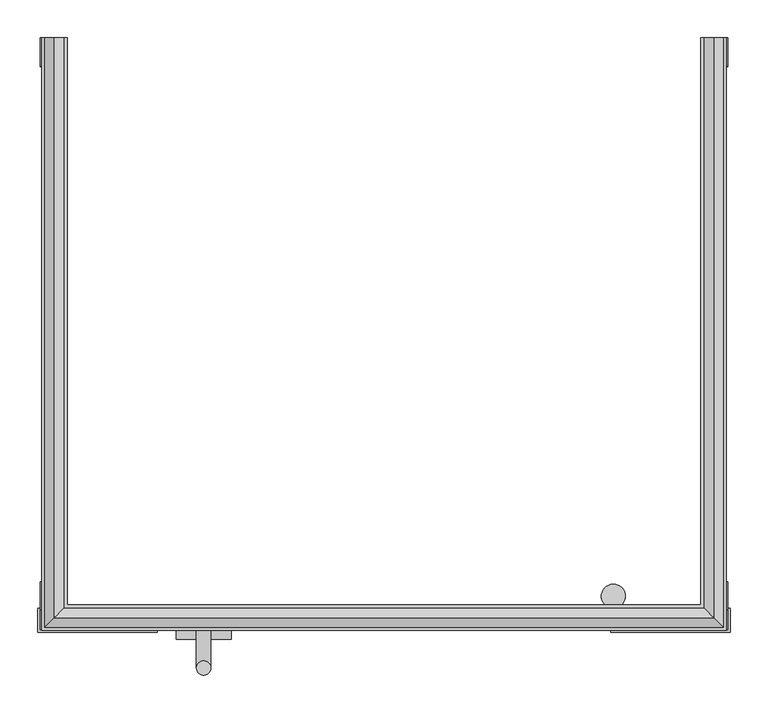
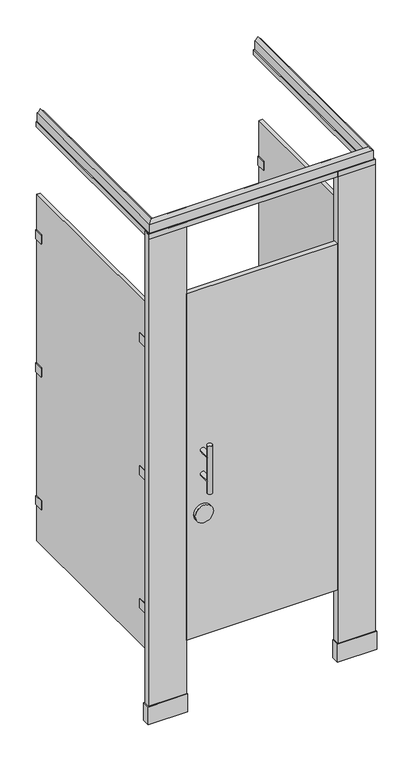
"""IFC4 building model written with IfcOpenShell, lengths in millimetres: proxy geometry, Toilet-Partition_Ironwood-Mfg_Compact-Laminate : Compact Laminate - Headrail Braced - Flat Panel Door."""

from ifc_helpers import new_model, si_unit, point, frame, frame_2d, origin, origin_with_axes, place, context, project, spatial, polyline, circle_curve, ellipse_curve, trimmed, segment, composite_curve, outline, extrude, source, transform, mapped, element, save
from ifc_brep_helpers import plane_surface, cylinder_surface, revolved_surface, advanced_brep


def specialty_equipment_89fad2ef(model_context):
    return source(origin(), model_context, "Body", "SolidModel", [
        extrude(outline(polyline([(701.675, -758.825), (701.675, -790.575), (542.925, -790.575), (542.925, -758.825), (701.675, -758.825)])), origin_with_axes(), (0.0, 0.0, 1.0), 76.2),
        extrude(outline(polyline([(698.5, -762.0), (698.5, -787.4), (546.1, -787.4), (546.1, -762.0), (698.5, -762.0)])), origin_with_axes(), (0.0, 0.0, 1.0), 2082.8),
        extrude(outline(polyline([(-219.075, -758.825), (-60.325, -758.825), (-60.325, -790.575), (-219.075, -790.575), (-219.075, -758.825)])), origin_with_axes(), (0.0, 0.0, 1.0), 76.2),
        extrude(outline(polyline([(-215.9, -762.0), (-63.5, -762.0), (-63.5, -787.4), (-215.9, -787.4), (-215.9, -762.0)])), origin_with_axes(), (0.0, 0.0, 1.0), 2082.8),
        extrude(outline(polyline([(546.1, -787.4), (-63.5, -787.4), (-63.5, -768.35), (546.1, -768.35), (546.1, -787.4)])), frame((0.0, 0.0, 304.8), z_axis=(0.0, 0.0, 1.0), x_axis=(1.0, 0.0, 0.0)), (0.0, 0.0, 1.0), 1473.2),
        extrude(outline(composite_curve([segment(trimmed(circle_curve(frame_2d((827.0875, 1.5875)), 36.5125), [point((827.0875, -34.925))], [point((827.0875, 38.1))], False, "CARTESIAN"), True, "CONTINUOUS"), segment(trimmed(circle_curve(frame_2d((827.0875, 1.5875)), 36.5125), [point((827.0875, 38.1))], [point((827.0875, -34.925))], False, "CARTESIAN"), True, "CONTINUOUS")], self_intersect=False)), frame((0.0, -800.1, 0.0), z_axis=(0.0, 1.0, 0.0), x_axis=(0.0, 0.0, 1.0)), (0.0, 0.0, 1.0), 12.7),
        advanced_brep(
        [(-7.9375, -787.4, 1092.2), (11.1125, -787.4, 1092.2), (-7.9375, -787.4, 990.6), (11.1125, -787.4, 990.6), (11.1125, -838.2, 1092.2), (-7.9375, -838.2, 1092.2), (11.1125, -838.2, 990.6), (-7.9375, -838.2, 990.6), (-7.9375, -838.2, 1143.0), (11.1125, -838.2, 1143.0), (-7.9375, -838.2, 939.8), (11.1125, -838.2, 939.8)],
        [
            (0, 1, circle_curve(frame((1.5875, -787.4, 1092.2), z_axis=(0.0, 1.0, 0.0), x_axis=(1.0, 0.0, 0.0)), 9.525)),
            (1, 0, circle_curve(frame((1.5875, -787.4, 1092.2), z_axis=(0.0, 1.0, 0.0), x_axis=(1.0, 0.0, 0.0)), 9.525)),
            (2, 3, circle_curve(frame((1.5875, -787.4, 990.6), z_axis=(0.0, 1.0, 0.0), x_axis=(1.0, 0.0, 0.0)), 9.525)),
            (3, 2, circle_curve(frame((1.5875, -787.4, 990.6), z_axis=(0.0, 1.0, 0.0), x_axis=(1.0, 0.0, 0.0)), 9.525)),
            (1, 4),
            (4, 5, ellipse_curve(frame((1.5875, -838.2, 1092.2), z_axis=(0.0, 0.7071067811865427, 0.7071067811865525), x_axis=(0.0, -0.7071067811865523, 0.7071067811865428)), 13.4703842, 9.525)),
            (5, 0),
            (5, 4, ellipse_curve(frame((1.5875, -838.2, 1092.2), z_axis=(0.0, 0.7071067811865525, -0.7071067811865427), x_axis=(0.0, -0.7071067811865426, -0.7071067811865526)), 13.4703842, 9.525)),
            (3, 6),
            (6, 7, ellipse_curve(frame((1.5875, -838.2, 990.6), z_axis=(0.0, 0.7071067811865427, 0.7071067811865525), x_axis=(0.0, -0.7071067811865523, 0.7071067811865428)), 13.4703842, 9.525)),
            (7, 2),
            (7, 6, ellipse_curve(frame((1.5875, -838.2, 990.6), z_axis=(0.0, 0.7071067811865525, -0.7071067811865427), x_axis=(0.0, -0.7071067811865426, -0.7071067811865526)), 13.4703842, 9.525)),
            (8, 9, circle_curve(frame((1.5875, -838.2, 1143.0), z_axis=(0.0, 0.0, 1.0), x_axis=(1.0, 0.0, 0.0)), 9.525)),
            (9, 8, circle_curve(frame((1.5875, -838.2, 1143.0), z_axis=(0.0, 0.0, 1.0), x_axis=(1.0, 0.0, 0.0)), 9.525)),
            (10, 11, circle_curve(frame((1.5875, -838.2, 939.8), z_axis=(0.0, 0.0, -1.0), x_axis=(1.0, 0.0, 0.0)), 9.525)),
            (11, 10, circle_curve(frame((1.5875, -838.2, 939.8), z_axis=(0.0, 0.0, -1.0), x_axis=(1.0, 0.0, 0.0)), 9.525)),
            (8, 5),
            (5, 7),
            (7, 10),
            (11, 6),
            (6, 4),
            (4, 9),
        ],
        [
            plane_surface(frame((11.1125, -787.4, 1092.2), z_axis=(0.0, 1.0, 0.0), x_axis=(0.0, 0.0, -1.0))),
            cylinder_surface(frame((1.5875, -787.4, 1092.2), z_axis=(0.0, -1.0, 0.0), x_axis=(1.0, 0.0, 0.0)), 9.525),
            cylinder_surface(frame((1.5875, -787.4, 990.6), z_axis=(0.0, -1.0, 0.0), x_axis=(1.0, 0.0, 0.0)), 9.525),
            plane_surface(frame((11.1125, -838.2, 1143.0), z_axis=(0.0, 0.0, 1.0), x_axis=(0.0, 1.0, 0.0))),
            plane_surface(frame((11.1125, -838.2, 939.8), z_axis=(0.0, 0.0, -1.0), x_axis=(0.0, -1.0, 0.0))),
            cylinder_surface(frame((1.5875, -838.2, 939.8), z_axis=(0.0, 0.0, 1.0), x_axis=(1.0, 0.0, 0.0)), 9.525),
        ],
        [
            (0, [[1, 2]]),
            (0, [[3, 4]]),
            (1, [[-2, 5, 6, 7]]),
            (1, [[-1, -7, 8, -5]]),
            (2, [[-4, 9, 10, 11]]),
            (2, [[-3, -11, 12, -9]]),
            (3, [[13, 14]]),
            (4, [[15, 16]]),
            (5, [[-13, 17, 18, 19, -16, 20, 21, 22]]),
            (5, [[-14, -22, -8, -17]]),
            (5, [[-15, -19, -10, -20]]),
            (5, [[-18, -6, -21, -12]]),
        ],
    ),
        extrude(outline(composite_curve([segment(polyline([(581.3737081, -762.0), (505.1737081, -762.0), (505.1737081, -758.825), (533.7487081, -758.825), (533.7487081, -752.9581331)]), True, "CONTINUOUS"), segment(trimmed(circle_curve(frame_2d((546.1, -742.8902139)), 15.9347861), [point((533.7487081, -752.9581331))], [point((558.4512919, -752.9581331))], False, "CARTESIAN"), True, "CONTINUOUS"), segment(polyline([(558.4512919, -752.9581331), (558.4512919, -758.825), (581.3737081, -758.825), (581.3737081, -762.0)]), True, "CONTINUOUS")], self_intersect=False)), frame((0.0, 0.0, 1574.8), z_axis=(0.0, 0.0, 1.0), x_axis=(1.0, 0.0, 0.0)), (0.0, 0.0, 1.0), 63.5),
        extrude(outline(composite_curve([segment(polyline([(581.3737081, -762.0), (505.1737081, -762.0), (505.1737081, -758.825), (533.7487081, -758.825), (533.7487081, -752.9581331)]), True, "CONTINUOUS"), segment(trimmed(circle_curve(frame_2d((546.1, -742.8902139)), 15.9347861), [point((533.7487081, -752.9581331))], [point((558.4512919, -752.9581331))], False, "CARTESIAN"), True, "CONTINUOUS"), segment(polyline([(558.4512919, -752.9581331), (558.4512919, -758.825), (581.3737081, -758.825), (581.3737081, -762.0)]), True, "CONTINUOUS")], self_intersect=False)), frame((0.0, 0.0, 1009.6500001), z_axis=(0.0, 0.0, 1.0), x_axis=(1.0, 0.0, 0.0)), (0.0, 0.0, 1.0), 63.5),
        extrude(outline(composite_curve([segment(polyline([(581.3737081, -762.0), (505.1737081, -762.0), (505.1737081, -758.825), (533.7487081, -758.825), (533.7487081, -752.9581331)]), True, "CONTINUOUS"), segment(trimmed(circle_curve(frame_2d((546.1, -742.8902139)), 15.9347861), [point((533.7487081, -752.9581331))], [point((558.4512919, -752.9581331))], False, "CARTESIAN"), True, "CONTINUOUS"), segment(polyline([(558.4512919, -752.9581331), (558.4512919, -758.825), (581.3737081, -758.825), (581.3737081, -762.0)]), True, "CONTINUOUS")], self_intersect=False)), frame((0.0, 0.0, 444.5), z_axis=(0.0, 0.0, 1.0), x_axis=(1.0, 0.0, 0.0)), (0.0, 0.0, 1.0), 63.5),
        extrude(outline(polyline([(682.498, -723.9), (682.498, -758.825), (695.198, -758.825), (695.198, -723.9), (698.373, -723.9), (698.373, -762.0), (679.323, -762.0), (679.323, -723.9), (682.498, -723.9)])), frame((0.0, 0.0, 1587.8188137), z_axis=(0.0, 0.0, 1.0), x_axis=(1.0, 0.0, 0.0)), (0.0, 0.0, 1.0), 38.1),
        extrude(outline(polyline([(682.498, -38.1), (679.323, -38.1), (679.323, 0.0), (698.373, 0.0), (698.373, -38.1), (695.198, -38.1), (695.198, -3.175), (682.498, -3.175), (682.498, -38.1)])), frame((0.0, 0.0, 1587.8188137), z_axis=(0.0, 0.0, 1.0), x_axis=(1.0, 0.0, 0.0)), (0.0, 0.0, 1.0), 38.1),
        extrude(outline(polyline([(682.498, -723.9), (682.498, -758.825), (695.198, -758.825), (695.198, -723.9), (698.373, -723.9), (698.373, -762.0), (679.323, -762.0), (679.323, -723.9), (682.498, -723.9)])), frame((0.0, 0.0, 1022.35), z_axis=(0.0, 0.0, 1.0), x_axis=(1.0, 0.0, 0.0)), (0.0, 0.0, 1.0), 38.1),
        extrude(outline(polyline([(682.498, -38.1), (679.323, -38.1), (679.323, 0.0), (698.373, 0.0), (698.373, -38.1), (695.198, -38.1), (695.198, -3.175), (682.498, -3.175), (682.498, -38.1)])), frame((0.0, 0.0, 1022.35), z_axis=(0.0, 0.0, 1.0), x_axis=(1.0, 0.0, 0.0)), (0.0, 0.0, 1.0), 38.1),
        extrude(outline(polyline([(682.498, -723.9), (682.498, -758.825), (695.198, -758.825), (695.198, -723.9), (698.373, -723.9), (698.373, -762.0), (679.323, -762.0), (679.323, -723.9), (682.498, -723.9)])), frame((0.0, 0.0, 457.2), z_axis=(0.0, 0.0, 1.0), x_axis=(1.0, 0.0, 0.0)), (0.0, 0.0, 1.0), 38.1),
        extrude(outline(polyline([(682.498, -38.1), (679.323, -38.1), (679.323, 0.0), (698.373, 0.0), (698.373, -38.1), (695.198, -38.1), (695.198, -3.175), (682.498, -3.175), (682.498, -38.1)])), frame((0.0, 0.0, 457.2), z_axis=(0.0, 0.0, 1.0), x_axis=(1.0, 0.0, 0.0)), (0.0, 0.0, 1.0), 38.1),
        extrude(outline(polyline([(-212.598, -723.9), (-212.598, -758.825), (-199.898, -758.825), (-199.898, -723.9), (-196.723, -723.9), (-196.723, -762.0), (-215.773, -762.0), (-215.773, -723.9), (-212.598, -723.9)])), frame((0.0, 0.0, 1587.8188137), z_axis=(0.0, 0.0, 1.0), x_axis=(1.0, 0.0, 0.0)), (0.0, 0.0, 1.0), 38.1),
        extrude(outline(polyline([(-212.598, -38.1), (-215.773, -38.1), (-215.773, 0.0), (-196.723, 0.0), (-196.723, -38.1), (-199.898, -38.1), (-199.898, -3.175), (-212.598, -3.175), (-212.598, -38.1)])), frame((0.0, 0.0, 1587.8188137), z_axis=(0.0, 0.0, 1.0), x_axis=(1.0, 0.0, 0.0)), (0.0, 0.0, 1.0), 38.1),
        extrude(outline(polyline([(-212.598, -723.9), (-212.598, -758.825), (-199.898, -758.825), (-199.898, -723.9), (-196.723, -723.9), (-196.723, -762.0), (-215.773, -762.0), (-215.773, -723.9), (-212.598, -723.9)])), frame((0.0, 0.0, 1022.35), z_axis=(0.0, 0.0, 1.0), x_axis=(1.0, 0.0, 0.0)), (0.0, 0.0, 1.0), 38.1),
        extrude(outline(polyline([(-212.598, -38.1), (-215.773, -38.1), (-215.773, 0.0), (-196.723, 0.0), (-196.723, -38.1), (-199.898, -38.1), (-199.898, -3.175), (-212.598, -3.175), (-212.598, -38.1)])), frame((0.0, 0.0, 1022.35), z_axis=(0.0, 0.0, 1.0), x_axis=(1.0, 0.0, 0.0)), (0.0, 0.0, 1.0), 38.1),
        extrude(outline(polyline([(-212.598, -723.9), (-212.598, -758.825), (-199.898, -758.825), (-199.898, -723.9), (-196.723, -723.9), (-196.723, -762.0), (-215.773, -762.0), (-215.773, -723.9), (-212.598, -723.9)])), frame((0.0, 0.0, 457.2), z_axis=(0.0, 0.0, 1.0), x_axis=(1.0, 0.0, 0.0)), (0.0, 0.0, 1.0), 38.1),
        extrude(outline(polyline([(-212.598, -38.1), (-215.773, -38.1), (-215.773, 0.0), (-196.723, 0.0), (-196.723, -38.1), (-199.898, -38.1), (-199.898, -3.175), (-212.598, -3.175), (-212.598, -38.1)])), frame((0.0, 0.0, 457.2), z_axis=(0.0, 0.0, 1.0), x_axis=(1.0, 0.0, 0.0)), (0.0, 0.0, 1.0), 38.1),
        extrude(outline(polyline([(-199.898, -3.175), (-199.898, -758.825), (-212.598, -758.825), (-212.598, -3.175), (-199.898, -3.175)])), frame((0.0, 0.0, 304.8), z_axis=(0.0, 0.0, 1.0), x_axis=(1.0, 0.0, 0.0)), (0.0, 0.0, 1.0), 1473.2),
        extrude(outline(polyline([(695.198, -3.175), (695.198, -758.825), (682.498, -758.825), (682.498, -3.175), (695.198, -3.175)])), frame((0.0, 0.0, 304.8), z_axis=(0.0, 0.0, 1.0), x_axis=(1.0, 0.0, 0.0)), (0.0, 0.0, 1.0), 1473.2),
        advanced_brep(
        [(663.448, 0.0, 2063.75), (662.257375, 0.0, 2063.75), (662.257375, 0.0, 2083.990625), (666.623, 0.0, 2083.990625), (666.623, 0.0, 2120.9), (679.323, 0.0, 2133.6), (692.023, 0.0, 2120.9), (692.023, 0.0, 2083.990625), (696.388625, 0.0, 2083.990625), (696.388625, 0.0, 2063.75), (695.198, 0.0, 2063.75), (695.198, 0.0, 2082.8), (663.448, 0.0, 2082.8), (667.813625, 0.0, 2119.709375), (667.813625, 0.0, 2083.990625), (690.832375, 0.0, 2083.990625), (690.832375, 0.0, 2119.709375), (679.323, 0.0, 2131.21875), (663.448, -755.65, 2063.75), (663.448, -755.65, 2082.8), (-180.848, -755.65, 2082.8), (-180.848, -755.65, 2063.75), (695.198, -787.4, 2082.8), (695.198, -787.4, 2063.75), (-212.598, -787.4, 2063.75), (-212.598, -787.4, 2082.8), (696.388625, -788.590625, 2063.75), (696.388625, -788.590625, 2083.990625), (-213.788625, -788.590625, 2083.990625), (-213.788625, -788.590625, 2063.75), (692.023, -784.225, 2083.990625), (692.023, -784.225, 2120.9), (-209.423, -784.225, 2120.9), (-209.423, -784.225, 2083.990625), (679.323, -771.525, 2133.6), (-196.723, -771.525, 2133.6), (666.623, -758.825, 2120.9), (-184.023, -758.825, 2120.9), (666.623, -758.825, 2083.990625), (-184.023, -758.825, 2083.990625), (662.257375, -754.459375, 2083.990625), (662.257375, -754.459375, 2063.75), (-179.657375, -754.459375, 2063.75), (-179.657375, -754.459375, 2083.990625), (667.813625, -760.015625, 2119.709375), (679.323, -771.525, 2131.21875), (-196.723, -771.525, 2131.21875), (-185.213625, -760.015625, 2119.709375), (690.832375, -783.034375, 2119.709375), (-208.232375, -783.034375, 2119.709375), (690.832375, -783.034375, 2083.990625), (-208.232375, -783.034375, 2083.990625), (667.813625, -760.015625, 2083.990625), (-185.213625, -760.015625, 2083.990625), (-180.848, 0.0, 2063.75), (-180.848, 0.0, 2082.8), (-212.598, 0.0, 2082.8), (-212.598, 0.0, 2063.75), (-213.788625, 0.0, 2063.75), (-213.788625, 0.0, 2083.990625), (-209.423, 0.0, 2083.990625), (-209.423, 0.0, 2120.9), (-196.723, 0.0, 2133.6), (-184.023, 0.0, 2120.9), (-184.023, 0.0, 2083.990625), (-179.657375, 0.0, 2083.990625), (-179.657375, 0.0, 2063.75), (-185.213625, 0.0, 2119.709375), (-196.723, 0.0, 2131.21875), (-208.232375, 0.0, 2119.709375), (-208.232375, 0.0, 2083.990625), (-185.213625, 0.0, 2083.990625)],
        [
            (0, 1),
            (1, 2),
            (2, 3),
            (3, 4),
            (4, 5, circle_curve(frame((649.9091809, 0.0, 2150.3138191), z_axis=(0.0, -1.0, 0.0), x_axis=(1.0, 0.0, 0.0)), 33.8308218)),
            (5, 6, circle_curve(frame((708.7368191, 0.0, 2150.3138191), z_axis=(0.0, -1.0, 0.0), x_axis=(1.0, 0.0, 0.0)), 33.8308218)),
            (6, 7),
            (7, 8),
            (8, 9),
            (9, 10),
            (10, 11),
            (11, 12),
            (12, 0),
            (13, 14),
            (14, 15),
            (15, 16),
            (16, 17, circle_curve(frame((709.9824574, 0.0, 2150.3688324), z_axis=(0.0, 1.0, 0.0), x_axis=(1.0, 0.0, 0.0)), 36.1486927)),
            (17, 13, circle_curve(frame((648.6635426, 0.0, 2150.3688324), z_axis=(0.0, 1.0, 0.0), x_axis=(1.0, 0.0, 0.0)), 36.1486927)),
            (18, 19),
            (19, 20),
            (20, 21),
            (21, 18),
            (22, 23),
            (23, 24),
            (24, 25),
            (25, 22),
            (26, 27),
            (27, 28),
            (28, 29),
            (29, 26),
            (30, 31),
            (31, 32),
            (32, 33),
            (33, 30),
            (31, 34, ellipse_curve(frame((708.7368191, -800.9388191, 2150.3138191), z_axis=(0.7071067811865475, 0.7071067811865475, 0.0), x_axis=(-0.7071067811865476, 0.7071067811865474, 0.0)), 47.844007, 33.8308218)),
            (34, 35),
            (35, 32, ellipse_curve(frame((-226.1368191, -800.9388191, 2150.3138191), z_axis=(-0.7071067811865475, 0.7071067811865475, 0.0), x_axis=(-0.7071067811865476, -0.7071067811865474, 0.0)), 47.844007, 33.8308218)),
            (34, 36, ellipse_curve(frame((649.9091809, -742.1111809, 2150.3138191), z_axis=(0.7071067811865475, 0.7071067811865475, 0.0), x_axis=(-0.7071067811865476, 0.7071067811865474, 0.0)), 47.844007, 33.8308218)),
            (36, 37),
            (37, 35, ellipse_curve(frame((-167.3091809, -742.1111809, 2150.3138191), z_axis=(-0.7071067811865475, 0.7071067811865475, 0.0), x_axis=(-0.7071067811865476, -0.7071067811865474, 0.0)), 47.844007, 33.8308218)),
            (36, 38),
            (38, 39),
            (39, 37),
            (40, 41),
            (41, 42),
            (42, 43),
            (43, 40),
            (44, 45, ellipse_curve(frame((648.6635426, -740.8655426, 2150.3688324), z_axis=(-0.7071067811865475, -0.7071067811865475, 0.0), x_axis=(0.7071067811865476, -0.7071067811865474, 0.0)), 51.1219715, 36.1486927)),
            (45, 46),
            (46, 47, ellipse_curve(frame((-166.0635426, -740.8655426, 2150.3688324), z_axis=(0.7071067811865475, -0.7071067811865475, 0.0), x_axis=(0.7071067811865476, 0.7071067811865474, 0.0)), 51.1219715, 36.1486927)),
            (47, 44),
            (45, 48, ellipse_curve(frame((709.9824574, -802.1844574, 2150.3688324), z_axis=(-0.7071067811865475, -0.7071067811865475, 0.0), x_axis=(0.7071067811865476, -0.7071067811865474, 0.0)), 51.1219715, 36.1486927)),
            (48, 49),
            (49, 46, ellipse_curve(frame((-227.3824574, -802.1844574, 2150.3688324), z_axis=(0.7071067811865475, -0.7071067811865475, 0.0), x_axis=(0.7071067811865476, 0.7071067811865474, 0.0)), 51.1219715, 36.1486927)),
            (48, 50),
            (50, 51),
            (51, 49),
            (52, 44),
            (47, 53),
            (53, 52),
            (54, 55),
            (55, 56),
            (56, 57),
            (57, 58),
            (58, 59),
            (59, 60),
            (60, 61),
            (61, 62, circle_curve(frame((-226.1368191, 0.0, 2150.3138191), z_axis=(0.0, -1.0, 0.0), x_axis=(-1.0, 0.0, 0.0)), 33.8308218)),
            (62, 63, circle_curve(frame((-167.3091809, 0.0, 2150.3138191), z_axis=(0.0, -1.0, 0.0), x_axis=(-1.0, 0.0, 0.0)), 33.8308218)),
            (63, 64),
            (64, 65),
            (65, 66),
            (66, 54),
            (67, 68, circle_curve(frame((-166.0635426, 0.0, 2150.3688324), z_axis=(0.0, 1.0, 0.0), x_axis=(-1.0, 0.0, 0.0)), 36.1486927)),
            (68, 69, circle_curve(frame((-227.3824574, 0.0, 2150.3688324), z_axis=(0.0, 1.0, 0.0), x_axis=(-1.0, 0.0, 0.0)), 36.1486927)),
            (69, 70),
            (70, 71),
            (71, 67),
            (20, 55),
            (54, 21),
            (24, 57),
            (56, 25),
            (28, 59),
            (58, 29),
            (32, 61),
            (60, 33),
            (35, 62),
            (37, 63),
            (39, 64),
            (42, 66),
            (65, 43),
            (46, 68),
            (67, 47),
            (49, 69),
            (51, 70),
            (71, 53),
            (0, 18),
            (41, 1),
            (40, 2),
            (38, 3),
            (36, 4),
            (34, 5),
            (31, 6),
            (30, 7),
            (27, 8),
            (26, 9),
            (23, 10),
            (22, 11),
            (19, 12),
            (13, 44),
            (52, 14),
            (50, 15),
            (48, 16),
            (45, 17),
        ],
        [
            plane_surface(frame((695.198, 0.0, 0.0), z_axis=(0.0, 1.0, 0.0), x_axis=(0.0, 0.0, 1.0))),
            plane_surface(frame((663.448, -755.65, 2082.8), z_axis=(0.0, -1.0, 0.0), x_axis=(-1.0, 0.0, 0.0))),
            plane_surface(frame((695.198, -787.4, 2063.75), z_axis=(0.0, 1.0, 0.0), x_axis=(-1.0, 0.0, 0.0))),
            plane_surface(frame((696.388625, -788.590625, 2083.990625), z_axis=(0.0, -1.0, 0.0), x_axis=(-1.0, 0.0, 0.0))),
            plane_surface(frame((692.023, -784.225, 2120.9), z_axis=(0.0, -1.0, 0.0), x_axis=(-1.0, 0.0, 0.0))),
            revolved_surface(polyline([(-259.9676408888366, -834.7696409, 2150.3138191), (742.5676408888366, -834.7696409, 2150.3138191)]), (695.198, -800.9388191, 2150.3138191), (-1.0, 0.0, 0.0)),
            revolved_surface(polyline([(-201.1400026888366, -775.9420027, 2150.3138191), (683.7400026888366, -775.9420027, 2150.3138191)]), (695.198, -742.1111809, 2150.3138191), (-1.0, 0.0, 0.0)),
            plane_surface(frame((666.623, -758.825, 2083.990625), z_axis=(0.0, 1.0, 0.0), x_axis=(-1.0, 0.0, 0.0))),
            plane_surface(frame((662.257375, -754.459375, 2063.75), z_axis=(0.0, 1.0, 0.0), x_axis=(-1.0, 0.0, 0.0))),
            cylinder_surface(frame((695.198, -740.8655426, 2150.3688324), z_axis=(1.0, 0.0, 0.0), x_axis=(0.0, -1.0, 0.0)), 36.1486927),
            cylinder_surface(frame((695.198, -802.1844574, 2150.3688324), z_axis=(1.0, 0.0, 0.0), x_axis=(0.0, -1.0, 0.0)), 36.1486927),
            plane_surface(frame((690.832375, -783.034375, 2083.990625), z_axis=(0.0, 1.0, 0.0), x_axis=(-1.0, 0.0, 0.0))),
            plane_surface(frame((667.813625, -760.015625, 2119.709375), z_axis=(0.0, -1.0, 0.0), x_axis=(-1.0, 0.0, 0.0))),
            plane_surface(frame((-212.598, 0.0, 0.0), z_axis=(0.0, 1.0, 0.0), x_axis=(0.0, 0.0, 1.0))),
            plane_surface(frame((-180.848, -755.65, 2082.8), z_axis=(-1.0, 0.0, 0.0), x_axis=(0.0, 1.0, 0.0))),
            plane_surface(frame((-212.598, -787.4, 2063.75), z_axis=(1.0, 0.0, 0.0), x_axis=(0.0, 1.0, 0.0))),
            plane_surface(frame((-213.788625, -788.590625, 2083.990625), z_axis=(-1.0, 0.0, 0.0), x_axis=(0.0, 1.0, 0.0))),
            plane_surface(frame((-209.423, -784.225, 2120.9), z_axis=(-1.0, 0.0, 0.0), x_axis=(0.0, 1.0, 0.0))),
            revolved_surface(polyline([(-259.9676409, 0.0, 2150.3138191), (-259.9676409, -834.7696408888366, 2150.3138191)]), (-226.1368191, -787.4, 2150.3138191), (0.0, 1.0, 0.0)),
            revolved_surface(polyline([(-201.1400027, 0.0, 2150.3138191), (-201.1400027, -775.9420026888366, 2150.3138191)]), (-167.3091809, -787.4, 2150.3138191), (0.0, 1.0, 0.0)),
            plane_surface(frame((-184.023, -758.825, 2083.990625), z_axis=(1.0, 0.0, 0.0), x_axis=(0.0, 1.0, 0.0))),
            plane_surface(frame((-179.657375, -754.459375, 2063.75), z_axis=(1.0, 0.0, 0.0), x_axis=(0.0, 1.0, 0.0))),
            cylinder_surface(frame((-166.0635426, -787.4, 2150.3688324), z_axis=(0.0, -1.0, 0.0), x_axis=(-1.0, 0.0, 0.0)), 36.1486927),
            cylinder_surface(frame((-227.3824574, -787.4, 2150.3688324), z_axis=(0.0, -1.0, 0.0), x_axis=(-1.0, 0.0, 0.0)), 36.1486927),
            plane_surface(frame((-208.232375, -783.034375, 2083.990625), z_axis=(1.0, 0.0, 0.0), x_axis=(0.0, 1.0, 0.0))),
            plane_surface(frame((-185.213625, -760.015625, 2119.709375), z_axis=(-1.0, 0.0, 0.0), x_axis=(0.0, 1.0, 0.0))),
            plane_surface(frame((663.448, 0.0, 2063.75), z_axis=(0.0, 0.0, -1.0), x_axis=(0.0, -1.0, 0.0))),
            plane_surface(frame((662.257375, 0.0, 2063.75), z_axis=(-1.0, 0.0, 0.0), x_axis=(0.0, -1.0, 0.0))),
            plane_surface(frame((662.257375, 0.0, 2083.990625), z_axis=(0.0, 0.0, 1.0), x_axis=(0.0, -1.0, 0.0))),
            plane_surface(frame((666.623, 0.0, 2083.990625), z_axis=(-1.0, 0.0, 0.0), x_axis=(0.0, -1.0, 0.0))),
            revolved_surface(polyline([(683.7400027, -775.9420026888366, 2150.3138191), (683.7400027, 0.0, 2150.3138191)]), (649.9091809, 0.0, 2150.3138191), (0.0, -1.0, 0.0)),
            revolved_surface(polyline([(742.5676409, -834.7696408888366, 2150.3138191), (742.5676409, 0.0, 2150.3138191)]), (708.7368191, 0.0, 2150.3138191), (0.0, -1.0, 0.0)),
            plane_surface(frame((692.023, 0.0, 2120.9), z_axis=(1.0, 0.0, 0.0), x_axis=(0.0, -1.0, 0.0))),
            plane_surface(frame((692.023, 0.0, 2083.990625), z_axis=(0.0, 0.0, 1.0), x_axis=(0.0, -1.0, 0.0))),
            plane_surface(frame((696.388625, 0.0, 2083.990625), z_axis=(1.0, 0.0, 0.0), x_axis=(0.0, -1.0, 0.0))),
            plane_surface(frame((696.388625, 0.0, 2063.75), z_axis=(0.0, 0.0, -1.0), x_axis=(0.0, -1.0, 0.0))),
            plane_surface(frame((695.198, 0.0, 2063.75), z_axis=(-1.0, 0.0, 0.0), x_axis=(0.0, -1.0, 0.0))),
            plane_surface(frame((695.198, 0.0, 2082.8), z_axis=(0.0, 0.0, -1.0), x_axis=(0.0, -1.0, 0.0))),
            plane_surface(frame((663.448, 0.0, 2082.8), z_axis=(1.0, 0.0, 0.0), x_axis=(0.0, -1.0, 0.0))),
            plane_surface(frame((667.813625, 0.0, 2119.709375), z_axis=(1.0, 0.0, 0.0), x_axis=(0.0, -1.0, 0.0))),
            plane_surface(frame((667.813625, 0.0, 2083.990625), z_axis=(0.0, 0.0, 1.0), x_axis=(0.0, -1.0, 0.0))),
            plane_surface(frame((690.832375, 0.0, 2083.990625), z_axis=(-1.0, 0.0, 0.0), x_axis=(0.0, -1.0, 0.0))),
            cylinder_surface(frame((709.9824574, 0.0, 2150.3688324), z_axis=(0.0, 1.0, 0.0), x_axis=(1.0, 0.0, 0.0)), 36.1486927),
            cylinder_surface(frame((648.6635426, 0.0, 2150.3688324), z_axis=(0.0, 1.0, 0.0), x_axis=(1.0, 0.0, 0.0)), 36.1486927),
        ],
        [
            (0, [[1, 2, 3, 4, 5, 6, 7, 8, 9, 10, 11, 12, 13], [14, 15, 16, 17, 18]]),
            (1, [[19, 20, 21, 22]]),
            (2, [[23, 24, 25, 26]]),
            (3, [[27, 28, 29, 30]]),
            (4, [[31, 32, 33, 34]]),
            (5, [[35, 36, 37, -32]]),
            (6, [[38, 39, 40, -36]]),
            (7, [[41, 42, 43, -39]]),
            (8, [[44, 45, 46, 47]]),
            (9, [[48, 49, 50, 51]]),
            (10, [[52, 53, 54, -49]]),
            (11, [[55, 56, 57, -53]]),
            (12, [[58, -51, 59, 60]]),
            (13, [[61, 62, 63, 64, 65, 66, 67, 68, 69, 70, 71, 72, 73], [74, 75, 76, 77, 78]]),
            (14, [[-21, 79, -61, 80]]),
            (15, [[-25, 81, -63, 82]]),
            (16, [[-29, 83, -65, 84]]),
            (17, [[-33, 85, -67, 86]]),
            (18, [[-37, 87, -68, -85]]),
            (19, [[-40, 88, -69, -87]]),
            (20, [[-43, 89, -70, -88]]),
            (21, [[-46, 90, -72, 91]]),
            (22, [[-50, 92, -74, 93]]),
            (23, [[-54, 94, -75, -92]]),
            (24, [[-57, 95, -76, -94]]),
            (25, [[-59, -93, -78, 96]]),
            (26, [[-1, 97, -22, -80, -73, -90, -45, 98]]),
            (27, [[-2, -98, -44, 99]]),
            (28, [[-3, -99, -47, -91, -71, -89, -42, 100]]),
            (29, [[-4, -100, -41, 101]]),
            (30, [[-5, -101, -38, 102]]),
            (31, [[-6, -102, -35, 103]]),
            (32, [[-7, -103, -31, 104]]),
            (33, [[-8, -104, -34, -86, -66, -83, -28, 105]]),
            (34, [[-9, -105, -27, 106]]),
            (35, [[-10, -106, -30, -84, -64, -81, -24, 107]]),
            (36, [[-11, -107, -23, 108]]),
            (37, [[-12, -108, -26, -82, -62, -79, -20, 109]]),
            (38, [[-13, -109, -19, -97]]),
            (39, [[-14, 110, -58, 111]]),
            (40, [[-15, -111, -60, -96, -77, -95, -56, 112]]),
            (41, [[-16, -112, -55, 113]]),
            (42, [[-17, -113, -52, 114]]),
            (43, [[-18, -114, -48, -110]]),
        ],
    ),
    ])


if __name__ == "__main__":
    model = new_model("IFC4")
    model_context = context("Model", 3, world=origin())
    ifc_project = project(units=[si_unit("LENGTHUNIT", "METRE", prefix="MILLI")], contexts=[model_context])
    site = spatial("IfcSite", under=ifc_project)
    building = spatial("IfcBuilding", under=site)
    placement = place(None, origin())
    specialty_equipment_shape = specialty_equipment_89fad2ef(model_context)
    element("IfcBuildingElementProxy", 1, Name="Toilet-Partition_Ironwood-Mfg_Compact-Laminate : Compact Laminate - Headrail Braced - Flat Panel Door", ObjectType="Toilet-Partition_Ironwood-Mfg_Compact-Laminate : Compact Laminate - Headrail Braced - Flat Panel Door", at=placement, inside=building, context=model_context, shape_type="MappedRepresentation", body=[
        mapped(specialty_equipment_shape, transform((0.0, 0.0, 0.0), x_axis=(1.0, 0.0, 0.0), y_axis=(0.0, 1.0, 0.0), z_axis=(0.0, 0.0, 1.0))),
    ])
    save(model, "model.ifc")
